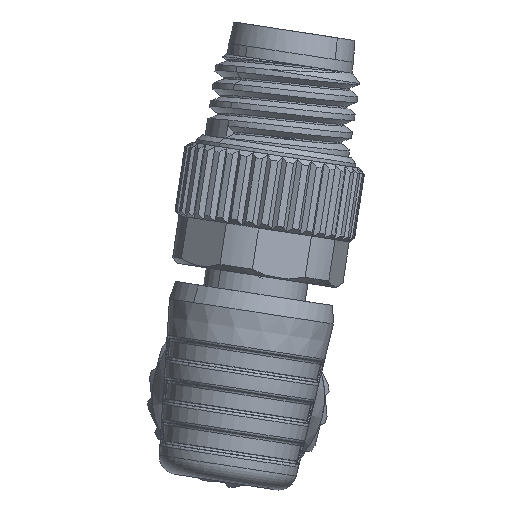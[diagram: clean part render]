
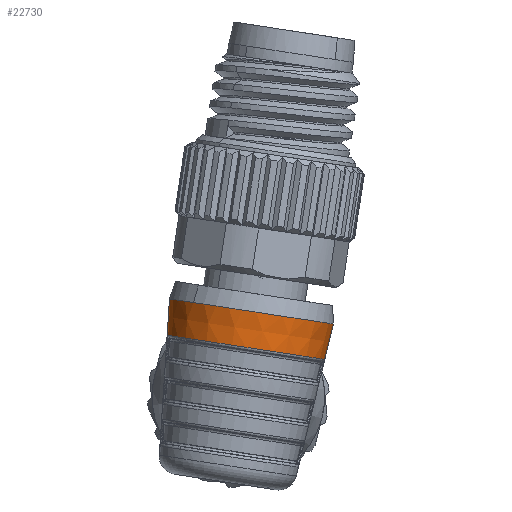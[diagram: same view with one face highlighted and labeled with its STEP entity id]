
A CAD part, left-side view. The second image highlights one B-rep face of the part: STEP entity #22730.
In plain terms, the highlighted conical face has half-angle 5 degrees and reference radius 4.563 mm.
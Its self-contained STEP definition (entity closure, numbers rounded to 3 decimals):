
#52 = ORIENTED_EDGE ( 'NONE', *, *, #6928, .T. ) ;
#2499 = CARTESIAN_POINT ( 'NONE',  ( 4.199, -5.762, 6.176 ) ) ;
#2671 = LINE ( 'NONE', #47134, #21734 ) ;
#3561 = DIRECTION ( 'NONE',  ( -1., 0., 0. ) ) ;
#5333 = CARTESIAN_POINT ( 'NONE',  ( 4.199, 3.92, 3.386 ) ) ;
#6899 = DIRECTION ( 'NONE',  ( 0., -0.152, 0.988 ) ) ;
#6928 = EDGE_CURVE ( 'NONE', #31137, #37148, #12644, .T. ) ;
#7581 = DIRECTION ( 'NONE',  ( -1., 0., 0. ) ) ;
#7605 = DIRECTION ( 'NONE',  ( 0.707, -0.699, -0.107 ) ) ;
#7733 = CONICAL_SURFACE ( 'NONE', #10279, 4.563, 0.087 ) ;
#10279 = AXIS2_PLACEMENT_3D ( 'NONE', #22727, #11793, #7605 ) ;
#10732 = CARTESIAN_POINT ( 'NONE',  ( 0.972, 2.468, 5.185 ) ) ;
#11359 = ORIENTED_EDGE ( 'NONE', *, *, #14430, .T. ) ;
#11462 = EDGE_CURVE ( 'NONE', #16514, #36643, #16744, .T. ) ;
#11793 = DIRECTION ( 'NONE',  ( 0., -0.152, 0.988 ) ) ;
#12644 = CIRCLE ( 'NONE', #28568, 4.563 ) ;
#14430 = EDGE_CURVE ( 'NONE', #36643, #31137, #42099, .T. ) ;
#16514 = VERTEX_POINT ( 'NONE', #5333 ) ;
#16744 = CIRCLE ( 'NONE', #47108, 4.388 ) ;
#18797 = EDGE_LOOP ( 'NONE', ( #52, #37975, #47527, #25835, #11359 ) ) ;
#19040 = DIRECTION ( 'NONE',  ( 0., 0.152, -0.988 ) ) ;
#21433 = AXIS2_PLACEMENT_3D ( 'NONE', #37101, #22226, #7581 ) ;
#21734 = VECTOR ( 'NONE', #43427, 1000. ) ;
#22226 = DIRECTION ( 'NONE',  ( 0., 0.152, -0.988 ) ) ;
#22727 = CARTESIAN_POINT ( 'NONE',  ( 4.199, -0.721, 4.695 ) ) ;
#22730 = ADVANCED_FACE ( 'NONE', ( #45274 ), #7733, .T. ) ;
#24751 = VECTOR ( 'NONE', #36224, 1000. ) ;
#25835 = ORIENTED_EDGE ( 'NONE', *, *, #11462, .T. ) ;
#28568 = AXIS2_PLACEMENT_3D ( 'NONE', #47828, #19040, #3561 ) ;
#28817 = DIRECTION ( 'NONE',  ( -1., 0., 0. ) ) ;
#31137 = VERTEX_POINT ( 'NONE', #40544 ) ;
#31619 = CARTESIAN_POINT ( 'NONE',  ( 4.199, 3.789, 5.387 ) ) ;
#32842 = CARTESIAN_POINT ( 'NONE',  ( 4.199, -0.418, 2.72 ) ) ;
#33235 = VERTEX_POINT ( 'NONE', #31619 ) ;
#36224 = DIRECTION ( 'NONE',  ( 0., -0.237, 0.971 ) ) ;
#36242 = CIRCLE ( 'NONE', #21433, 4.563 ) ;
#36643 = VERTEX_POINT ( 'NONE', #43882 ) ;
#37101 = CARTESIAN_POINT ( 'NONE',  ( 4.199, -0.721, 4.695 ) ) ;
#37148 = VERTEX_POINT ( 'NONE', #10732 ) ;
#37975 = ORIENTED_EDGE ( 'NONE', *, *, #40437, .T. ) ;
#40437 = EDGE_CURVE ( 'NONE', #37148, #33235, #36242, .T. ) ;
#40544 = CARTESIAN_POINT ( 'NONE',  ( 4.199, -5.231, 4.002 ) ) ;
#41722 = EDGE_CURVE ( 'NONE', #33235, #16514, #2671, .T. ) ;
#42099 = LINE ( 'NONE', #2499, #24751 ) ;
#43427 = DIRECTION ( 'NONE',  ( 0., 0.065, -0.998 ) ) ;
#43882 = CARTESIAN_POINT ( 'NONE',  ( 4.199, -4.755, 2.054 ) ) ;
#45274 = FACE_OUTER_BOUND ( 'NONE', #18797, .T. ) ;
#47108 = AXIS2_PLACEMENT_3D ( 'NONE', #32842, #6899, #28817 ) ;
#47134 = CARTESIAN_POINT ( 'NONE',  ( 4.199, 3.644, 7.62 ) ) ;
#47527 = ORIENTED_EDGE ( 'NONE', *, *, #41722, .T. ) ;
#47828 = CARTESIAN_POINT ( 'NONE',  ( 4.199, -0.721, 4.695 ) ) ;
